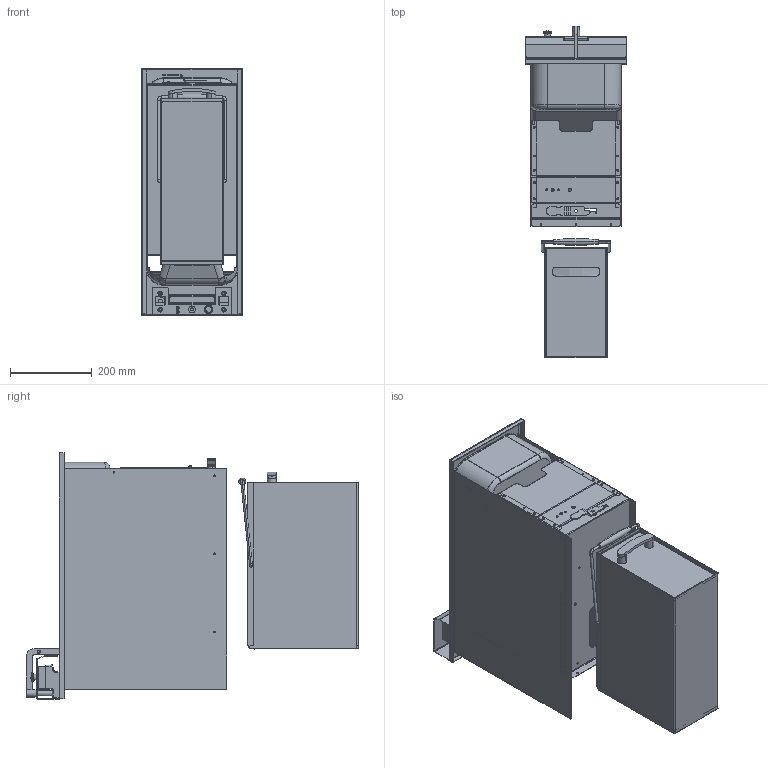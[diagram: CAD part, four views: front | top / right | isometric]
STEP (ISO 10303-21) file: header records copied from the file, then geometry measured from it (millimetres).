
FILE_DESCRIPTION (( 'STEP AP214' ), '1' );
FILE_NAME ('EVO250-E.STEP', '2020-01-15T16:24:22', ( '' ), ( '' ), 'SwSTEP 2.0', 'SolidWorks 2019', '' );
FILE_SCHEMA (( 'AUTOMOTIVE_DESIGN' ));
Length unit declared in the file: millimetre
Products named in the file (1): EVO250-E
Bounding box: 248 x 810 x 601.01 mm (x, y, z)
Surface area: 2604751.1 mm2 (no closed solid volume)
Topology: 0 solids, 51 shells, 618 faces, 2385 edges, 1718 vertices
Faces by surface type: cylinder 270, plane 249, cone 35, bspline 34, torus 30
Entity records: 34778 total; most frequent: CARTESIAN_POINT 8340, DIRECTION 4207, ORIENTED_EDGE 3490, EDGE_CURVE 2383, VERTEX_POINT 1718, AXIS2_PLACEMENT_3D 1496, VECTOR 1215, LINE 1215
